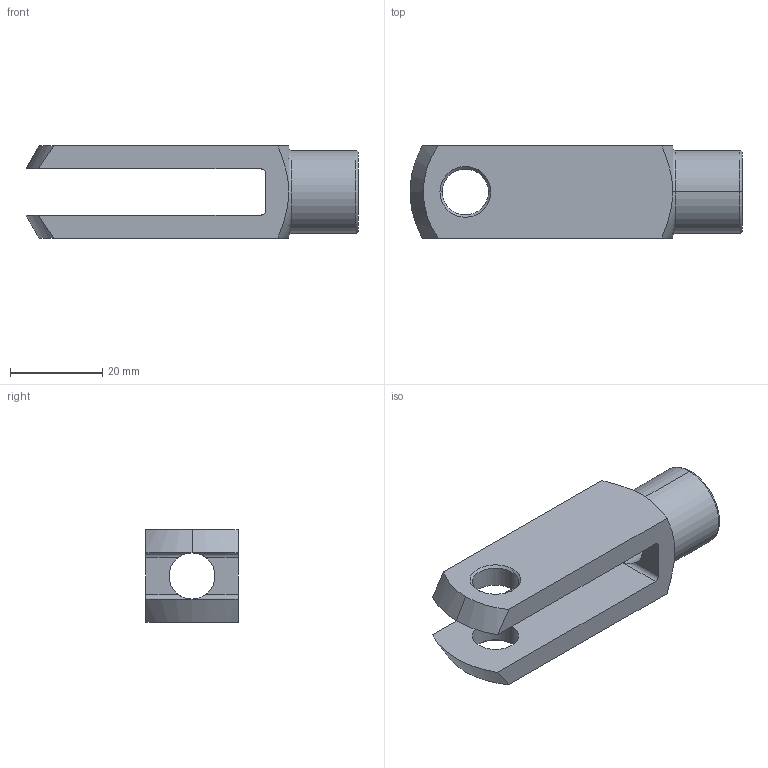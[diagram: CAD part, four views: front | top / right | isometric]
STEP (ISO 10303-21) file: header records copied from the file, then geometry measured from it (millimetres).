
FILE_DESCRIPTION (( 'STEP AP203' ), '1' );
FILE_NAME ('65636.W0105.step', '2014-01-17T13:12:42', ( 'User' ), ( '' ), 'SwSTEP 2.0', 'SolidWorks 2009', '' );
FILE_SCHEMA (( 'CONFIG_CONTROL_DESIGN' ));
Length unit declared in the file: millimetre
Products named in the file (1): 65636.W0105
Bounding box: 72 x 20 x 20 mm (x, y, z)
Volume: 13314 mm3; surface area: 7363.2 mm2
Topology: 1 solids, 1 shells, 39 faces, 93 edges, 56 vertices
Faces by surface type: cone 13, cylinder 12, plane 10, torus 4
Entity records: 1296 total; most frequent: CARTESIAN_POINT 301, DIRECTION 201, ORIENTED_EDGE 186, EDGE_CURVE 93, AXIS2_PLACEMENT_3D 84, VERTEX_POINT 56, EDGE_LOOP 45, CIRCLE 44
